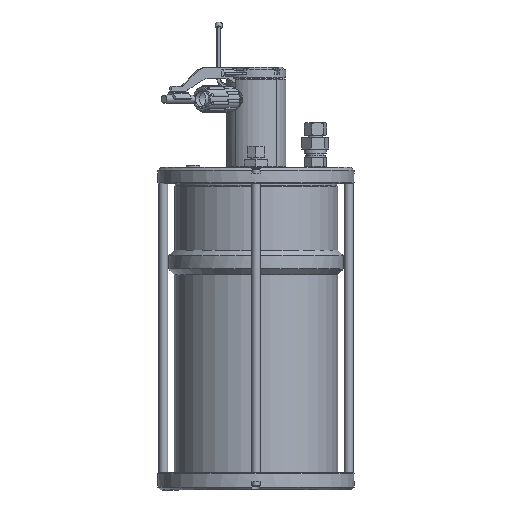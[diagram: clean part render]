
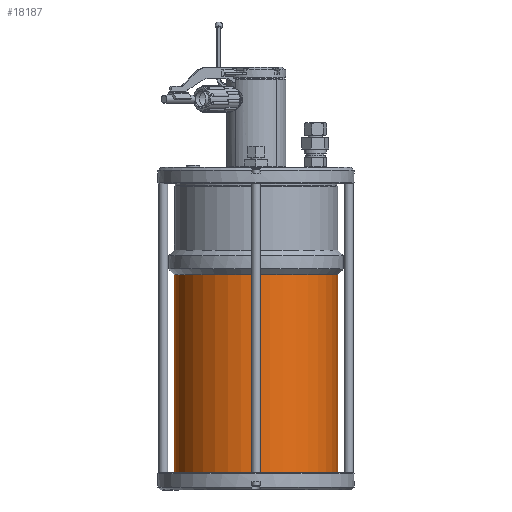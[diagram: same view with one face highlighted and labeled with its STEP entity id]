
A CAD part, front view. The second image highlights one B-rep face of the part: STEP entity #18187.
In plain terms, the highlighted cylindrical face has radius 110 mm (diameter 220 mm), a full revolution.
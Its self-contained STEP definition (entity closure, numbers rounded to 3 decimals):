
#1809=FACE_OUTER_BOUND('',#2922,.T.);
#2922=EDGE_LOOP('',(#15299,#15300,#15301,#15302,#15303));
#3504=CIRCLE('',#18866,110.);
#4041=CIRCLE('',#19919,110.);
#4042=CIRCLE('',#19920,110.);
#5334=LINE('',#30254,#6700);
#6700=VECTOR('',#24356,110.);
#7399=VERTEX_POINT('',#27059);
#8353=VERTEX_POINT('',#30250);
#8354=VERTEX_POINT('',#30251);
#9372=EDGE_CURVE('',#7399,#7399,#3504,.T.);
#10755=EDGE_CURVE('',#8353,#8354,#4041,.T.);
#10756=EDGE_CURVE('',#8354,#8353,#4042,.T.);
#10757=EDGE_CURVE('',#8354,#7399,#5334,.T.);
#15299=ORIENTED_EDGE('',*,*,#10755,.F.);
#15300=ORIENTED_EDGE('',*,*,#10756,.F.);
#15301=ORIENTED_EDGE('',*,*,#10757,.T.);
#15302=ORIENTED_EDGE('',*,*,#9372,.T.);
#15303=ORIENTED_EDGE('',*,*,#10757,.F.);
#16874=CYLINDRICAL_SURFACE('',#19918,110.);
#18187=ADVANCED_FACE('',(#1809),#16874,.T.);
#18866=AXIS2_PLACEMENT_3D('',#27060,#21546,#21547);
#19918=AXIS2_PLACEMENT_3D('',#30249,#24350,#24351);
#19919=AXIS2_PLACEMENT_3D('',#30252,#24352,#24353);
#19920=AXIS2_PLACEMENT_3D('',#30253,#24354,#24355);
#21546=DIRECTION('center_axis',(0.,0.,
1.));
#21547=DIRECTION('ref_axis',(-0.942,-0.336,0.));
#24350=DIRECTION('center_axis',(0.,0.,
1.));
#24351=DIRECTION('ref_axis',(-0.942,-0.336,0.));
#24352=DIRECTION('center_axis',(0.,0.,
1.));
#24353=DIRECTION('ref_axis',(-0.942,-0.336,0.));
#24354=DIRECTION('center_axis',(0.,0.,
1.));
#24355=DIRECTION('ref_axis',(-0.942,-0.336,0.));
#24356=DIRECTION('',(0.,0.,-1.));
#27059=CARTESIAN_POINT('',(103.623,36.909,-393.14));
#27060=CARTESIAN_POINT('Origin',(0.,0.,
-393.14));
#30249=CARTESIAN_POINT('Origin',(0.,0.,
-258.64));
#30250=CARTESIAN_POINT('',(-103.623,-36.909,-122.39));
#30251=CARTESIAN_POINT('',(103.623,36.909,-122.39));
#30252=CARTESIAN_POINT('Origin',(0.,0.,
-122.39));
#30253=CARTESIAN_POINT('Origin',(0.,0.,
-122.39));
#30254=CARTESIAN_POINT('',(103.623,36.909,-258.64));
